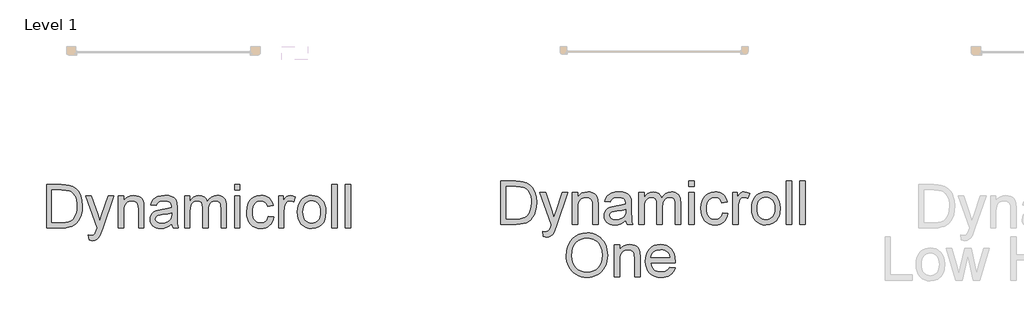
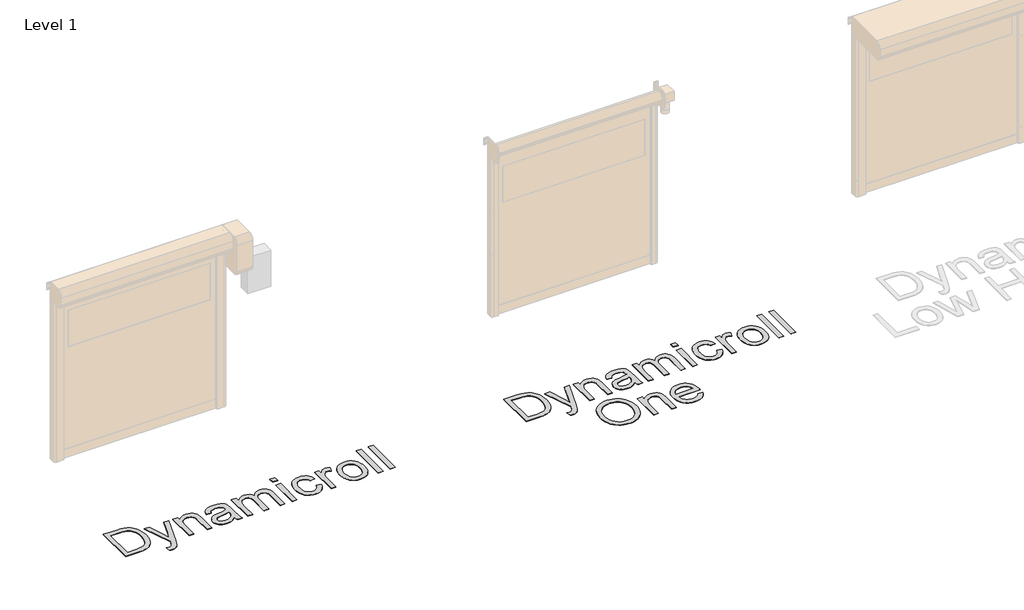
# One storey, part 12 of 17: 2 proxies.
"""IFC4 building model written with IfcOpenShell, lengths in millimetres."""

from ifc_helpers import new_model, si_unit, origin, origin_with_axes, place, context, project, spatial, polyline, outline, extrude, element, save

model = new_model("IFC4")

# Units and contexts
model_context = context("Model", 3, world=origin())
ifc_project = project(units=[si_unit("LENGTHUNIT", "METRE", prefix="MILLI")], contexts=[model_context])

# Site, building, storey
site = spatial("IfcSite", under=ifc_project)
building = spatial("IfcBuilding", under=site)
storey = spatial("IfcBuildingStorey", under=building, Name="Level 1", Elevation=0.0)

# Proxies
placement = place(None, origin())
element("IfcBuildingElementProxy", 1, Name="500mm", ObjectType="500mm", at=placement, inside=storey, context=model_context, shape_type="SweptSolid", body=[
    extrude(outline(polyline([(5402.5904997, 42632.3594673), (5402.5904997, 43134.6410181), (5575.8629195, 43134.6410181), (5627.6423103, 43132.832265), (5665.5034989, 43127.4060055), (5705.5413228, 43113.4571465), (5739.3251526, 43091.4761973), (5757.9415144, 43073.5112932), (5774.0593444, 43053.2164698), (5787.6786424, 43030.5917271), (5798.7994085, 43005.6370651), (5813.6066588, 42949.6576882), (5818.5424089, 42886.198044), (5815.2008142, 42832.2880033), (5805.1760298, 42784.8465543), (5789.908927, 42744.456177), (5770.8403769, 42711.699351), (5748.8900845, 42685.8403124), (5724.9777548, 42666.1432972), (5697.5245609, 42651.5353163), (5664.951676, 42640.9433806), (5627.1977862, 42634.5054457), (5584.201578, 42632.3594673), (5402.5904997, 42632.3594673)]), holes=[polyline([(5465.3756936, 42695.1446612), (5576.4760561, 42695.1446612), (5622.4306487, 42697.4132668), (5657.2874677, 42704.2190837), (5683.5910304, 42715.1635731), (5703.8858538, 42729.8481961), (5725.6981904, 42757.0254785), (5742.0842676, 42792.2041943), (5752.3389782, 42835.5376276), (5755.7572151, 42887.1790627), (5754.0825856, 42923.630037), (5749.0586971, 42955.6051138), (5740.6855496, 42983.1042929), (5728.9631431, 43006.1275744), (5714.8418394, 43025.1961245), (5699.2720004, 43040.8311093), (5682.253626, 43053.0325288), (5663.7867163, 43061.800383), (5627.6729671, 43069.341964), (5574.7592735, 43071.8558243), (5465.3756936, 43071.8558243), (5465.3756936, 42695.1446612)])]), origin_with_axes(), (0.0, 0.0, 1.0), 5.0),
    extrude(outline(polyline([(5897.0239012, 42491.0927812), (5889.175752, 42551.5480557), (5921.0588583, 42546.0298258), (5937.8281459, 42547.7619369), (5950.8572999, 42552.9582701), (5961.0047116, 42561.2509434), (5969.1287723, 42572.2720748), (5986.2965987, 42618.5025789), (5991.201692, 42633.708368), (5857.7831551, 43001.2224812), (5924.0019142, 43001.2224812), (5994.7578846, 42796.4348372), (6019.4059783, 42714.5197796), (6044.054072, 42786.8699053), (6116.7720797, 43001.2224812), (6182.5003295, 43001.2224812), (6054.1095132, 42623.5302995), (6020.754879, 42541.6152419), (6003.679023, 42515.4649634), (5984.3345614, 42497.3467751), (5961.8631029, 42486.7701678), (5935.4062561, 42483.244632), (5917.2267541, 42485.2066693), (5897.0239012, 42491.0927812)])), origin_with_axes(), (0.0, 0.0, 1.0), 5.0),
    extrude(outline(polyline([(6234.4943182, 42632.3594673), (6234.4943182, 43001.2224812), (6297.279512, 43001.2224812), (6297.279512, 42949.7190019), (6319.0918486, 42975.6853393), (6345.2881124, 42994.2327233), (6375.8683032, 43005.3611536), (6410.8324212, 43009.0706304), (6441.780494, 43006.0815892), (6470.1227361, 42997.1144656), (6493.7591543, 42983.2882339), (6510.5897555, 42965.7218686), (6522.0094258, 42944.461355), (6529.413051, 42919.5526782), (6532.7239889, 42858.852149), (6532.7239889, 42632.3594673), (6469.9387951, 42632.3594673), (6469.9387951, 42850.3908632), (6468.1300419, 42882.8564492), (6462.7037825, 42905.9410444), (6452.6943265, 42922.4804058), (6437.1359838, 42935.3102904), (6417.193714, 42943.54165), (6394.0324767, 42946.2854366), (6374.9677588, 42944.7449307), (6357.2596056, 42940.1234131), (6340.9080174, 42932.4208839), (6325.912994, 42921.6373429), (6313.3858456, 42906.5465169), (6304.4378825, 42885.9221325), (6299.0691046, 42859.7641898), (6297.279512, 42828.0726888), (6297.279512, 42632.3594673), (6234.4943182, 42632.3594673)])), origin_with_axes(), (0.0, 0.0, 1.0), 5.0),
    extrude(outline(polyline([(6854.4981074, 42679.4483627), (6824.5003963, 42653.7272799), (6793.6136372, 42636.8966786), (6761.1327227, 42627.6076582), (6726.3525457, 42624.5113181), (6698.3973462, 42626.3737207), (6673.8833761, 42631.9609285), (6652.8106356, 42641.2729415), (6635.1791246, 42654.3097597), (6621.2570903, 42670.2436486), (6611.3127801, 42688.2468738), (6605.346194, 42708.3194351), (6603.357332, 42730.4613327), (6606.3617016, 42756.4889839), (6615.3748105, 42780.1254021), (6629.2776842, 42800.3589118), (6646.9513484, 42816.1778376), (6667.7213527, 42828.1340024), (6690.9132468, 42836.7792293), (6745.2371548, 42846.2215339), (6809.432563, 42856.1543477), (6854.1302254, 42867.8039443), (6854.4981074, 42881.7834601), (6850.1754939, 42909.8038054), (6837.2076536, 42928.1365915), (6824.1325143, 42936.0767112), (6808.2062896, 42941.7482253), (6767.8005838, 42946.2854366), (6730.3992477, 42943.2657385), (6704.279626, 42934.2066444), (6686.4680061, 42917.4526852), (6673.9906751, 42891.348392), (6611.2054812, 42899.1965412), (6622.1039853, 42933.5321941), (6638.3674352, 42960.510207), (6661.5133441, 42981.1422556), (6693.0592251, 42996.4400152), (6731.6408494, 43005.9129766), (6775.8939877, 43009.0706304), (6818.3383729, 43006.2808586), (6851.9842471, 42997.9115432), (6877.3527763, 42985.3269133), (6894.9651268, 42969.8911979), (6906.6453802, 42950.8073194), (6914.2176179, 42927.2782001), (6917.2833012, 42872.3411555), (6917.2833012, 42794.2275452), (6920.4716118, 42685.1505337), (6925.1927641, 42658.1878491), (6932.9795997, 42632.3594673), (6870.1944058, 42632.3594673), (6860.1389646, 42654.1871324), (6854.4981074, 42679.4483627)]), holes=[polyline([(6854.4981074, 42805.0187504), (6812.3143052, 42794.5647704), (6753.2079314, 42785.7662593), (6699.1905917, 42775.5881908), (6685.1344338, 42768.6290897), (6674.7264391, 42759.033501), (6668.2885041, 42747.5371887), (6666.1425258, 42734.8759167), (6670.8176929, 42716.2059054), (6684.8431939, 42700.9081458), (6707.9124607, 42690.6994204), (6739.7189249, 42687.296512), (6773.4414411, 42691.051974), (6803.2398827, 42702.3183601), (6827.397467, 42718.9190351), (6844.1974115, 42738.677364), (6851.6470219, 42759.033501), (6854.1302254, 42787.2377873), (6854.4981074, 42805.0187504)])]), origin_with_axes(), (0.0, 0.0, 1.0), 5.0),
    extrude(outline(polyline([(7003.6129427, 42632.3594673), (7003.6129427, 43001.2224812), (7066.3981366, 43001.2224812), (7066.3981366, 42940.521952), (7085.2827457, 42968.4043415), (7109.5629574, 42990.247335), (7138.4110371, 43004.3648066), (7170.9992505, 43009.0706304), (7205.9173833, 43004.2728361), (7233.9070717, 42989.879453), (7254.8150318, 42966.840843), (7268.4879793, 42936.107368), (7291.373305, 42968.0287953), (7317.4775983, 42990.8298148), (7346.800859, 43004.5104265), (7379.3430871, 43009.0706304), (7404.477858, 43007.1737389), (7426.5392814, 43001.4830643), (7445.5273573, 42991.9986066), (7461.4420857, 42978.7203658), (7474.0228836, 42961.4950578), (7483.0091677, 42940.1693984), (7488.4009382, 42914.7433876), (7490.198195, 42885.2170254), (7490.198195, 42632.3594673), (7427.4130012, 42632.3594673), (7427.4130012, 42858.2390124), (7425.9568016, 42889.5549672), (7421.5882029, 42910.6621967), (7413.4028285, 42925.1168934), (7400.4963019, 42936.47525), (7383.8956268, 42943.8328899), (7364.6278073, 42946.2854366), (7346.8353479, 42944.7142739), (7330.6140512, 42940.0007858), (7315.9639172, 42932.1449724), (7302.8849458, 42921.1468336), (7292.1282296, 42906.6844726), (7284.4448608, 42888.4359928), (7279.8348396, 42866.4013942), (7278.2981658, 42840.5806766), (7278.2981658, 42632.3594673), (7215.512972, 42632.3594673), (7215.512972, 42865.2287703), (7211.8801373, 42900.7293828), (7200.9816332, 42926.0519268), (7192.5548362, 42934.9040873), (7181.8057842, 42941.2270591), (7153.3409148, 42946.2854366), (7129.1526736, 42942.9131849), (7106.8651561, 42932.7964301), (7088.4710563, 42916.1804266), (7075.9630685, 42893.3104293), (7068.7893696, 42861.5806072), (7066.3981366, 42818.3851296), (7066.3981366, 42632.3594673), (7003.6129427, 42632.3594673)])), origin_with_axes(), (0.0, 0.0, 1.0), 5.0),
    extrude(outline(polyline([(7584.3759858, 43071.8558243), (7584.3759858, 43134.6410181), (7647.1611796, 43134.6410181), (7647.1611796, 43071.8558243), (7584.3759858, 43071.8558243)])), origin_with_axes(), (0.0, 0.0, 1.0), 5.0),
    extrude(outline(polyline([(7584.3759858, 42632.3594673), (7584.3759858, 43001.2224812), (7647.1611796, 43001.2224812), (7647.1611796, 42632.3594673), (7584.3759858, 42632.3594673)])), origin_with_axes(), (0.0, 0.0, 1.0), 5.0),
    extrude(outline(polyline([(7976.7834473, 42765.7780043), (8039.5686412, 42757.929855), (8032.7398316, 42728.3038581), (8022.0635896, 42702.0884338), (8007.539915, 42679.2835823), (7989.1688078, 42659.8893033), (7967.7243532, 42644.4114348), (7943.9806361, 42633.3558144), (7917.9376565, 42626.7224422), (7889.5954145, 42624.5113181), (7854.3822097, 42627.5961619), (7822.8095039, 42636.8506934), (7794.877297, 42652.2749124), (7770.585589, 42673.8688191), (7750.9230628, 42701.2262104), (7736.8784012, 42733.9408833), (7728.4516043, 42772.0128377), (7725.6426719, 42815.4420736), (7730.4404663, 42871.3141516), (7744.8338494, 42919.7366192), (7755.6863682, 42940.6867325), (7769.0527474, 42958.8394096), (7784.9329868, 42974.1946508), (7803.3270866, 42986.752456), (7844.3306006, 43003.4910868), (7888.7370231, 43009.0706304), (7916.592588, 43007.1545783), (7941.7886725, 43001.4064222), (7964.3252768, 42991.8261619), (7984.2024009, 42978.4137975), (8001.0828195, 42961.4758973), (8014.6293076, 42941.3190296), (8024.841865, 42917.9431945), (8031.7204919, 42891.348392), (7968.9352981, 42883.5002427), (7957.5462846, 42910.8921229), (7939.8113068, 42930.5278244), (7916.7113832, 42942.3460335), (7889.2275325, 42946.2854366), (7867.8942088, 42944.3463919), (7848.6532141, 42938.5292578), (7831.5045482, 42928.8340344), (7816.4482111, 42915.2607216), (7804.18931, 42897.495087), (7795.4329521, 42875.2228978), (7790.1791374, 42848.4441543), (7788.4278658, 42817.1588563), (7790.1408163, 42785.4022094), (7795.2796679, 42758.3130654), (7803.8444206, 42735.8914243), (7815.8350744, 42718.1372859), (7830.5925074, 42704.6444473), (7847.4575976, 42695.0067054), (7866.4303451, 42689.2240603), (7887.5107498, 42687.296512), (7920.0223211, 42692.1096347), (7946.6784374, 42706.549003), (7957.4581463, 42717.4704998), (7966.0688842, 42730.9824989), (7976.7834473, 42765.7780043)])), origin_with_axes(), (0.0, 0.0, 1.0), 5.0),
    extrude(outline(polyline([(8094.5056858, 42632.3594673), (8094.5056858, 43001.2224812), (8149.4427304, 43001.2224812), (8149.4427304, 42946.6533186), (8169.7375538, 42978.2911701), (8188.4382219, 42996.9305246), (8207.2002036, 43006.0356039), (8227.678968, 43009.0706304), (8258.9489376, 43004.2268508), (8290.7094165, 42989.695512), (8269.7401428, 42933.4095667), (8247.6672231, 42943.0664691), (8225.5943034, 42946.2854366), (8206.84765, 42943.1890964), (8190.0936909, 42933.9000761), (8176.5586991, 42919.1234826), (8167.4689481, 42899.5644232), (8159.8353967, 42864.4930063), (8157.2908796, 42826.2332788), (8157.2908796, 42632.3594673), (8094.5056858, 42632.3594673)])), origin_with_axes(), (0.0, 0.0, 1.0), 5.0),
    extrude(outline(polyline([(8314.2538642, 42816.7909743), (8317.6491085, 42864.5619842), (8327.8348412, 42905.7264466), (8344.8110624, 42940.2843615), (8368.5777722, 42968.2357289), (8392.5054303, 42986.1009983), (8418.9162919, 42998.861905), (8447.8103569, 43006.5184491), (8479.1876254, 43009.0706304), (8513.8260145, 43005.962794), (8545.1458014, 42996.6392847), (8573.1469862, 42981.1001025), (8597.8295688, 42959.3452474), (8617.9749402, 42932.1104834), (8632.3644911, 42900.1315746), (8640.9982217, 42863.4085208), (8643.8761319, 42821.9413222), (8638.7870976, 42758.5123349), (8632.4258048, 42732.4770195), (8623.5199948, 42710.227823), (8612.1807988, 42691.0098208), (8598.5193476, 42674.0680885), (8582.5356413, 42659.4026261), (8564.2296799, 42647.0134335), (8523.5020774, 42630.136847), (8479.1876254, 42624.5113181), (8444.0433985, 42627.6076582), (8412.4323717, 42636.8966786), (8384.3545448, 42652.3783793), (8359.809918, 42674.0527601), (8339.8791444, 42701.5519393), (8325.6428777, 42734.5080347), (8317.1011176, 42772.9210463), (8314.2538642, 42816.7909743)]), holes=[polyline([(8377.0390581, 42816.9136016), (8378.8554754, 42786.4598702), (8384.3047275, 42760.0911618), (8393.3868142, 42737.8074763), (8406.1017357, 42719.6088139), (8421.5681079, 42705.4721818), (8438.9045469, 42695.3745874), (8458.1110528, 42689.3160308), (8479.1876254, 42687.296512), (8500.1568991, 42689.3275271), (8519.2867629, 42695.4205727), (8536.5772166, 42705.5756486), (8552.0282604, 42719.7927549), (8564.7431819, 42738.1715262), (8573.8252687, 42760.8115973), (8579.2745207, 42787.7129682), (8581.0909381, 42818.8756389), (8579.2630244, 42848.3636801), (8573.7792834, 42874.0426098), (8564.6397151, 42895.912428), (8551.8443194, 42913.9731347), (8536.3357941, 42928.1097667), (8519.0568366, 42938.2073611), (8500.0074471, 42944.2659177), (8479.1876254, 42946.2854366), (8458.1110528, 42944.2735819), (8438.9045469, 42938.2380179), (8421.5681079, 42928.1787446), (8406.1017357, 42914.095762), (8393.3868142, 42895.950749), (8384.3047275, 42873.7053846), (8378.8554754, 42847.3596688), (8377.0390581, 42816.9136016)])]), origin_with_axes(), (0.0, 0.0, 1.0), 5.0),
    extrude(outline(polyline([(8714.509475, 42632.3594673), (8714.509475, 43134.6410181), (8777.2946688, 43134.6410181), (8777.2946688, 42632.3594673), (8714.509475, 42632.3594673)])), origin_with_axes(), (0.0, 0.0, 1.0), 5.0),
    extrude(outline(polyline([(8871.4724596, 42632.3594673), (8871.4724596, 43134.6410181), (8934.2576534, 43134.6410181), (8934.2576534, 42632.3594673), (8871.4724596, 42632.3594673)])), origin_with_axes(), (0.0, 0.0, 1.0), 5.0),
    extrude(outline(polyline([(6163.8609751, 42267.0042776), (6168.0456328, 42325.9190463), (6180.5996059, 42378.0739833), (6201.5228943, 42423.4690887), (6230.8154982, 42462.1043624), (6266.7223138, 42492.9528005), (6307.4882374, 42514.9873992), (6353.113269, 42528.2081584), (6403.5974086, 42532.6150781), (6437.3889027, 42530.5457419), (6469.4789426, 42524.3377332), (6499.8675282, 42513.9910521), (6528.5546596, 42499.5056985), (6554.735595, 42481.3185324), (6577.6055923, 42459.8664136), (6597.1646517, 42435.149342), (6613.4127732, 42407.1673177), (6626.1813441, 42376.5564701), (6635.3017519, 42343.9529282), (6640.7739966, 42309.3566923), (6642.5980781, 42272.7677622), (6640.678194, 42235.695987), (6634.9185415, 42200.6322343), (6625.3191207, 42167.5765042), (6611.8799315, 42136.5287966), (6594.9190387, 42108.3091819), (6574.7545069, 42083.7377303), (6551.386336, 42062.8144418), (6524.814526, 42045.5393165), (6496.0852415, 42032.0196532), (6466.2446467, 42022.3627508), (6435.2927418, 42016.5686094), (6403.2295266, 42014.6372289), (6368.8478885, 42016.7717109), (6336.3363172, 42023.1751569), (6305.6948126, 42033.8475668), (6276.9233749, 42048.7889408), (6250.7730964, 42067.420631), (6227.9950696, 42089.1639897), (6208.5892943, 42114.019017), (6192.5557707, 42141.9857129), (6180.0017976, 42171.9412708), (6171.034674, 42202.7628842), (6165.6543998, 42234.4505531), (6163.8609751, 42267.0042776)]), holes=[polyline([(6226.6461689, 42266.3911409), (6229.7846622, 42224.766826), (6239.200142, 42187.8176781), (6254.8926084, 42155.5436973), (6276.8620613, 42127.9448834), (6303.5679949, 42105.8413069), (6333.4699033, 42090.0530379), (6366.5677865, 42080.5800765), (6402.8616446, 42077.4224227), (6439.7763036, 42080.6107334), (6473.2650614, 42090.1756652), (6503.3279182, 42106.1172184), (6529.9648739, 42128.4353927), (6551.7733785, 42156.6166864), (6567.3508817, 42190.1475974), (6576.6973836, 42229.0281258), (6579.8128843, 42273.2582715), (6574.4785954, 42328.8391096), (6558.4757286, 42376.8783668), (6546.5770453, 42397.7671663), (6532.2181512, 42416.1650982), (6515.3990462, 42432.0721624), (6496.1197304, 42445.4883589), (6474.978012, 42456.1377762), (6452.5716992, 42463.7445029), (6428.9007921, 42468.3085389), (6403.9652906, 42469.8298843), (6368.9321948, 42466.8983246), (6336.4282877, 42458.1036457), (6306.4535693, 42443.4458474), (6279.0080396, 42422.9249299), (6256.0997212, 42395.5522102), (6239.7366366, 42360.3390054), (6229.9187858, 42317.2853157), (6226.6461689, 42266.3911409)])]), origin_with_axes(), (0.0, 0.0, 1.0), 5.0),
    extrude(outline(polyline([(6721.0795704, 42022.4853781), (6721.0795704, 42391.348392), (6783.8647643, 42391.348392), (6783.8647643, 42339.8449126), (6805.6771009, 42365.8112501), (6831.8733647, 42384.358634), (6862.4535555, 42395.4870644), (6897.4176735, 42399.1965412), (6928.3657463, 42396.2075), (6956.7079884, 42387.2403763), (6980.3444065, 42373.4141447), (6997.1750078, 42355.8477794), (7008.5946781, 42334.5872658), (7015.9983032, 42309.678589), (7019.3092412, 42248.9780598), (7019.3092412, 42022.4853781), (6956.5240474, 42022.4853781), (6956.5240474, 42240.5167739), (6954.7152942, 42272.98236), (6949.2890348, 42296.0669552), (6939.2795788, 42312.6063166), (6923.7212361, 42325.4362011), (6903.7789663, 42333.6675608), (6880.617729, 42336.4113473), (6861.553011, 42334.8708415), (6843.8448579, 42330.2493239), (6827.4932697, 42322.5467946), (6812.4982462, 42311.7632537), (6799.9710979, 42296.6724277), (6791.0231348, 42276.0480433), (6785.6543569, 42249.8901006), (6783.8647643, 42218.1985996), (6783.8647643, 42022.4853781), (6721.0795704, 42022.4853781)])), origin_with_axes(), (0.0, 0.0, 1.0), 5.0),
    extrude(outline(polyline([(7363.8920433, 42132.3594673), (7425.4509639, 42124.5113181), (7416.0124914, 42099.8555602), (7403.2707452, 42078.1275299), (7387.2257253, 42059.3272271), (7367.8774316, 42043.4546518), (7345.4251336, 42030.8470293), (7320.0681007, 42021.8415846), (7291.8063328, 42016.4383178), (7260.63983, 42014.6372289), (7221.6826596, 42017.7450653), (7186.9714605, 42027.0685746), (7156.5062328, 42042.6077568), (7130.2869764, 42064.3626119), (7109.2027396, 42091.7276674), (7094.1425704, 42124.0974509), (7085.1064689, 42161.4719623), (7082.094435, 42203.8512017), (7085.1371257, 42247.6674802), (7094.2651977, 42286.2874255), (7109.4786511, 42319.7110376), (7130.7774857, 42347.9383165), (7156.9277642, 42370.3637898), (7186.695549, 42386.381985), (7220.0808401, 42395.9929021), (7257.0836374, 42399.1965412), (7292.8946504, 42396.0005663), (7325.2797623, 42386.4126418), (7354.2389731, 42370.4327677), (7379.7722828, 42348.0609439), (7400.6150971, 42319.8949786), (7415.5028216, 42286.5326802), (7424.4354563, 42247.9740485), (7427.4130012, 42204.2190837), (7427.0451192, 42187.296512), (7144.8796289, 42187.296512), (7148.5162957, 42162.2422152), (7155.7474762, 42140.2995871), (7166.5731703, 42121.4686274), (7180.9933781, 42105.7493364), (7198.2110219, 42093.3563116), (7217.429024, 42084.5041511), (7238.6473845, 42079.1928548), (7261.8661034, 42077.4224227), (7295.2820512, 42080.7027039), (7323.4250239, 42090.5435472), (7346.2950212, 42107.5580895), (7363.8920433, 42132.3594673)]), holes=[polyline([(7144.8796289, 42250.0817058), (7364.6278073, 42250.0817058), (7356.1358646, 42283.252399), (7339.4892043, 42306.9807877), (7322.3673631, 42319.8566576), (7302.8849458, 42329.0537074), (7281.0419524, 42334.5719374), (7256.8383828, 42336.4113473), (7214.5166249, 42330.5405638), (7196.1033646, 42323.2020844), (7179.5218501, 42312.9282133), (7165.6074801, 42300.1941313), (7155.1956532, 42285.4750194), (7148.2863694, 42268.7708776), (7144.8796289, 42250.0817058)])]), origin_with_axes(), (0.0, 0.0, 1.0), 5.0),
])
element("IfcBuildingElementProxy", 2, Name="500mm", ObjectType="500mm", at=placement, inside=storey, context=model_context, shape_type="SweptSolid", body=[
    extrude(outline(polyline([(132.2974666, 42591.1035648), (132.2974666, 43093.3851155), (305.5698863, 43093.3851155), (357.3492772, 43091.5763624), (395.2104658, 43086.150103), (435.2482896, 43072.201244), (469.0321195, 43050.2202948), (487.6484813, 43032.2553907), (503.7663112, 43011.9605673), (517.3856093, 42989.3358246), (528.5063754, 42964.3811626), (543.3136257, 42908.4017856), (548.2493758, 42844.9421415), (544.907781, 42791.0321008), (534.8829967, 42743.5906518), (519.6158939, 42703.2002744), (500.5473438, 42670.4434484), (478.5970514, 42644.5844098), (454.6847217, 42624.8873947), (427.2315278, 42610.2794138), (394.6586428, 42599.687478), (356.9047531, 42593.2495431), (313.9085449, 42591.1035648), (132.2974666, 42591.1035648)]), holes=[polyline([(195.0826604, 42653.8887586), (306.183023, 42653.8887586), (352.1376156, 42656.1573643), (386.9944346, 42662.9631812), (413.2979973, 42673.9076705), (433.5928207, 42688.5922935), (455.4051573, 42715.7695759), (471.7912345, 42750.9482917), (482.0459451, 42794.2817251), (485.464182, 42845.9231601), (483.7895525, 42882.3741345), (478.765664, 42914.3492112), (470.3925165, 42941.8483904), (458.67011, 42964.8716719), (444.5488063, 42983.940222), (428.9789673, 42999.5752068), (411.9605929, 43011.7766263), (393.4936832, 43020.5444805), (357.379934, 43028.0860614), (304.4662403, 43030.5999217), (195.0826604, 43030.5999217), (195.0826604, 42653.8887586)])]), origin_with_axes(), (0.0, 0.0, 1.0), 5.0),
    extrude(outline(polyline([(626.7308681, 42449.8368787), (618.8827189, 42510.2921532), (650.7658251, 42504.7739233), (667.5351128, 42506.5060343), (680.5642668, 42511.7023675), (690.7116785, 42519.9950408), (698.8357392, 42531.0161723), (716.0035656, 42577.2466763), (720.9086589, 42592.4524654), (587.490122, 42959.9665786), (653.7088811, 42959.9665786), (724.4648515, 42755.1789346), (749.1129452, 42673.2638771), (773.7610389, 42745.6140028), (846.4790466, 42959.9665786), (912.2072964, 42959.9665786), (783.8164801, 42582.2743969), (750.4618458, 42500.3593393), (733.3859899, 42474.2090608), (714.0415283, 42456.0908726), (691.5700698, 42445.5142652), (665.113223, 42441.9887294), (646.933721, 42443.9507667), (626.7308681, 42449.8368787)])), origin_with_axes(), (0.0, 0.0, 1.0), 5.0),
    extrude(outline(polyline([(964.201285, 42591.1035648), (964.201285, 42959.9665786), (1026.9864789, 42959.9665786), (1026.9864789, 42908.4630993), (1048.7988155, 42934.4294368), (1074.9950792, 42952.9768207), (1105.5752701, 42964.1052511), (1140.5393881, 42967.8147279), (1171.4874609, 42964.8256867), (1199.8297029, 42955.858563), (1223.4661211, 42942.0323314), (1240.2967224, 42924.4659661), (1251.7163927, 42903.2054525), (1259.1200178, 42878.2967757), (1262.4309558, 42817.5962465), (1262.4309558, 42591.1035648), (1199.6457619, 42591.1035648), (1199.6457619, 42809.1349606), (1197.8370088, 42841.6005467), (1192.4107494, 42864.6851419), (1182.4012934, 42881.2245032), (1166.8429507, 42894.0543878), (1146.9006809, 42902.2857475), (1123.7394436, 42905.029534), (1104.6747256, 42903.4890282), (1086.9665725, 42898.8675106), (1070.6149842, 42891.1649813), (1055.6199608, 42880.3814403), (1043.0928125, 42865.2906143), (1034.1448494, 42844.66623), (1028.7760715, 42818.5082873), (1026.9864789, 42786.8167862), (1026.9864789, 42591.1035648), (964.201285, 42591.1035648)])), origin_with_axes(), (0.0, 0.0, 1.0), 5.0),
    extrude(outline(polyline([(1584.2050742, 42638.1924602), (1554.2073632, 42612.4713774), (1523.320604, 42595.6407761), (1490.8396895, 42586.3517557), (1456.0595126, 42583.2554156), (1428.1043131, 42585.1178182), (1403.590343, 42590.705026), (1382.5176025, 42600.017039), (1364.8860914, 42613.0538572), (1350.9640572, 42628.9877461), (1341.019747, 42646.9909712), (1335.0531609, 42667.0635326), (1333.0642989, 42689.2054302), (1336.0686685, 42715.2330813), (1345.0817774, 42738.8694995), (1358.9846511, 42759.1030093), (1376.6583153, 42774.9219351), (1397.4283196, 42786.8780999), (1420.6202137, 42795.5233268), (1474.9441217, 42804.9656313), (1539.1395298, 42814.8984452), (1583.8371922, 42826.5480417), (1584.2050742, 42840.5275575), (1579.8824608, 42868.5479028), (1566.9146205, 42886.8806889), (1553.8394812, 42894.8208087), (1537.9132565, 42900.4923227), (1497.5075507, 42905.029534), (1460.1062145, 42902.009836), (1433.9865929, 42892.9507418), (1416.1749729, 42876.1967826), (1403.6976419, 42850.0924894), (1340.9124481, 42857.9406386), (1351.8109522, 42892.2762915), (1368.0744021, 42919.2543045), (1391.2203109, 42939.8863531), (1422.766192, 42955.1841127), (1461.3478163, 42964.6570741), (1505.6009546, 42967.8147279), (1548.0453398, 42965.0249561), (1581.6912139, 42956.6556407), (1607.0597432, 42944.0710108), (1624.6720937, 42928.6352954), (1636.3523471, 42909.5514169), (1643.9245848, 42886.0222976), (1646.9902681, 42831.085253), (1646.9902681, 42752.9716427), (1650.1785787, 42643.8946311), (1654.899731, 42616.9319465), (1662.6865665, 42591.1035648), (1599.9013727, 42591.1035648), (1589.8459315, 42612.9312298), (1584.2050742, 42638.1924602)]), holes=[polyline([(1584.2050742, 42763.7628479), (1542.0212721, 42753.3088678), (1482.9148982, 42744.5103568), (1428.8975586, 42734.3322883), (1414.8414007, 42727.3731872), (1404.4334059, 42717.7775985), (1397.995471, 42706.2812861), (1395.8494927, 42693.6200141), (1400.5246597, 42674.9500029), (1414.5501608, 42659.6522432), (1437.6194276, 42649.4435179), (1469.4258917, 42646.0406094), (1503.148408, 42649.7960714), (1532.9468496, 42661.0624575), (1557.1044339, 42677.6631326), (1573.9043784, 42697.4214614), (1581.3539888, 42717.7775985), (1583.8371922, 42745.9818848), (1584.2050742, 42763.7628479)])]), origin_with_axes(), (0.0, 0.0, 1.0), 5.0),
    extrude(outline(polyline([(1733.3199096, 42591.1035648), (1733.3199096, 42959.9665786), (1796.1051035, 42959.9665786), (1796.1051035, 42899.2660494), (1814.9897125, 42927.148439), (1839.2699242, 42948.9914324), (1868.118004, 42963.108904), (1900.7062174, 42967.8147279), (1935.6243501, 42963.0169335), (1963.6140386, 42948.6235504), (1984.5219987, 42925.5849405), (1998.1949461, 42894.8514655), (2021.0802719, 42926.7728928), (2047.1845652, 42949.5739123), (2076.5078259, 42963.254524), (2109.050054, 42967.8147279), (2134.1848249, 42965.9178363), (2156.2462483, 42960.2271617), (2175.2343242, 42950.742704), (2191.1490526, 42937.4644633), (2203.7298504, 42920.2391553), (2212.7161346, 42898.9134958), (2218.1079051, 42873.487485), (2219.9051619, 42843.9611228), (2219.9051619, 42591.1035648), (2157.1199681, 42591.1035648), (2157.1199681, 42816.9831098), (2155.6637685, 42848.2990647), (2151.2951698, 42869.4062942), (2143.1097954, 42883.8609909), (2130.2032687, 42895.2193475), (2113.6025937, 42902.5769874), (2094.3347742, 42905.029534), (2076.5423148, 42903.4583713), (2060.3210181, 42898.7448833), (2045.670884, 42890.8890698), (2032.5919127, 42879.890931), (2021.8351964, 42865.4285701), (2014.1518277, 42847.1800903), (2009.5418064, 42825.1454916), (2008.0051327, 42799.3247741), (2008.0051327, 42591.1035648), (1945.2199388, 42591.1035648), (1945.2199388, 42823.9728677), (1941.5871041, 42859.4734803), (1930.6886, 42884.7960243), (1922.2618031, 42893.6481848), (1911.512751, 42899.9711566), (1883.0478817, 42905.029534), (1858.8596405, 42901.6572824), (1836.5721229, 42891.5405275), (1818.1780232, 42874.9245241), (1805.6700353, 42852.0545267), (1798.4963364, 42820.3247046), (1796.1051035, 42777.129227), (1796.1051035, 42591.1035648), (1733.3199096, 42591.1035648)])), origin_with_axes(), (0.0, 0.0, 1.0), 5.0),
    extrude(outline(polyline([(2314.0829527, 43030.5999217), (2314.0829527, 43093.3851155), (2376.8681465, 43093.3851155), (2376.8681465, 43030.5999217), (2314.0829527, 43030.5999217)])), origin_with_axes(), (0.0, 0.0, 1.0), 5.0),
    extrude(outline(polyline([(2314.0829527, 42591.1035648), (2314.0829527, 42959.9665786), (2376.8681465, 42959.9665786), (2376.8681465, 42591.1035648), (2314.0829527, 42591.1035648)])), origin_with_axes(), (0.0, 0.0, 1.0), 5.0),
    extrude(outline(polyline([(2706.4904142, 42724.5221017), (2769.275608, 42716.6739525), (2762.4467985, 42687.0479556), (2751.7705564, 42660.8325313), (2737.2468818, 42638.0276797), (2718.8757747, 42618.6334008), (2697.4313201, 42603.1555322), (2673.687603, 42592.0999119), (2647.6446234, 42585.4665396), (2619.3023813, 42583.2554156), (2584.0891766, 42586.3402594), (2552.5164708, 42595.5947908), (2524.5842639, 42611.0190099), (2500.2925559, 42632.6129166), (2480.6300297, 42659.9703079), (2466.5853681, 42692.6849807), (2458.1585711, 42730.7569351), (2455.3496388, 42774.1861711), (2460.1474332, 42830.0582491), (2474.5408162, 42878.4807167), (2485.3933351, 42899.4308299), (2498.7597142, 42917.5835071), (2514.6399537, 42932.9387483), (2533.0340535, 42945.4965535), (2574.0375675, 42962.2351843), (2618.44399, 42967.8147279), (2646.2995548, 42965.8986758), (2671.4956394, 42960.1505196), (2694.0322437, 42950.5702593), (2713.9093678, 42937.1578949), (2730.7897864, 42920.2199947), (2744.3362744, 42900.0631271), (2754.5488319, 42876.687292), (2761.4274588, 42850.0924894), (2698.642265, 42842.2443402), (2687.2532515, 42869.6362204), (2669.5182737, 42889.2719219), (2646.4183501, 42901.090131), (2618.9344993, 42905.029534), (2597.6011757, 42903.0904893), (2578.360181, 42897.2733553), (2561.211515, 42887.5781319), (2546.155178, 42874.0048191), (2533.8962769, 42856.2391844), (2525.139919, 42833.9669953), (2519.8861042, 42807.1882517), (2518.1348327, 42775.9029537), (2519.8477832, 42744.1463069), (2524.9866348, 42717.0571629), (2533.5513875, 42694.6355217), (2545.5420413, 42676.8813833), (2560.2994743, 42663.3885447), (2577.1645645, 42653.7508029), (2596.1373119, 42647.9681578), (2617.2177167, 42646.0406094), (2649.729288, 42650.8537322), (2676.3854043, 42665.2931005), (2687.1651131, 42676.2145972), (2695.7758511, 42689.7265963), (2706.4904142, 42724.5221017)])), origin_with_axes(), (0.0, 0.0, 1.0), 5.0),
    extrude(outline(polyline([(2824.2126526, 42591.1035648), (2824.2126526, 42959.9665786), (2879.1496973, 42959.9665786), (2879.1496973, 42905.397416), (2899.4445207, 42937.0352676), (2918.1451887, 42955.674622), (2936.9071705, 42964.7797014), (2957.3859349, 42967.8147279), (2988.6559045, 42962.9709483), (3020.4163834, 42948.4396094), (2999.4471097, 42892.1536642), (2977.37419, 42901.8105666), (2955.3012703, 42905.029534), (2936.5546169, 42901.9331939), (2919.8006577, 42892.6441735), (2906.265666, 42877.86758), (2897.175915, 42858.3085206), (2889.5423636, 42823.2371038), (2886.9978465, 42784.9773763), (2886.9978465, 42591.1035648), (2824.2126526, 42591.1035648)])), origin_with_axes(), (0.0, 0.0, 1.0), 5.0),
    extrude(outline(polyline([(3043.9608311, 42775.5350717), (3047.3560753, 42823.3060816), (3057.5418081, 42864.470544), (3074.5180293, 42899.028459), (3098.2847391, 42926.9798264), (3122.2123972, 42944.8450958), (3148.6232587, 42957.6060025), (3177.5173238, 42965.2625465), (3208.8945923, 42967.8147279), (3243.5329814, 42964.7068914), (3274.8527683, 42955.3833821), (3302.8539531, 42939.8441999), (3327.5365357, 42918.0893448), (3347.6819071, 42890.8545809), (3362.071458, 42858.875672), (3370.7051886, 42822.1526183), (3373.5830988, 42780.6854196), (3368.4940645, 42717.2564323), (3362.1327717, 42691.2211169), (3353.2269617, 42668.9719204), (3341.8877656, 42649.7539183), (3328.2263145, 42632.812186), (3312.2426082, 42618.1467235), (3293.9366468, 42605.7575309), (3253.2090443, 42588.8809444), (3208.8945923, 42583.2554156), (3173.7503654, 42586.3517557), (3142.1393386, 42595.6407761), (3114.0615117, 42611.1224767), (3089.5168848, 42632.7968576), (3069.5861113, 42660.2960367), (3055.3498445, 42693.2521321), (3046.8080845, 42731.6651438), (3043.9608311, 42775.5350717)]), holes=[polyline([(3106.7460249, 42775.657699), (3108.5624423, 42745.2039676), (3114.0116943, 42718.8352592), (3123.0937811, 42696.5515738), (3135.8087026, 42678.3529113), (3151.2750748, 42664.2162792), (3168.6115138, 42654.1186849), (3187.8180196, 42648.0601283), (3208.8945923, 42646.0406094), (3229.863866, 42648.0716246), (3248.9937297, 42654.1646701), (3266.2841835, 42664.319746), (3281.7352273, 42678.5368523), (3294.4501488, 42696.9156237), (3303.5322355, 42719.5556948), (3308.9814876, 42746.4570657), (3310.7979049, 42777.6197364), (3308.9699913, 42807.1077775), (3303.4862503, 42832.7867072), (3294.346682, 42854.6565254), (3281.5512863, 42872.7172321), (3266.042761, 42886.8538642), (3248.7638035, 42896.9514585), (3229.7144139, 42903.0100151), (3208.8945923, 42905.029534), (3187.8180196, 42903.0176794), (3168.6115138, 42896.9821154), (3151.2750748, 42886.9228421), (3135.8087026, 42872.8398594), (3123.0937811, 42854.6948464), (3114.0116943, 42832.4494821), (3108.5624423, 42806.1037663), (3106.7460249, 42775.657699)])]), origin_with_axes(), (0.0, 0.0, 1.0), 5.0),
    extrude(outline(polyline([(3444.2164419, 42591.1035648), (3444.2164419, 43093.3851155), (3507.0016357, 43093.3851155), (3507.0016357, 42591.1035648), (3444.2164419, 42591.1035648)])), origin_with_axes(), (0.0, 0.0, 1.0), 5.0),
    extrude(outline(polyline([(3601.1794265, 42591.1035648), (3601.1794265, 43093.3851155), (3663.9646203, 43093.3851155), (3663.9646203, 42591.1035648), (3601.1794265, 42591.1035648)])), origin_with_axes(), (0.0, 0.0, 1.0), 5.0),
])

save(model, "model.ifc")
